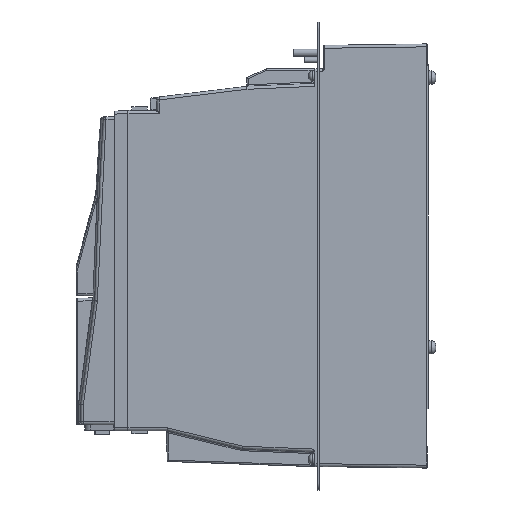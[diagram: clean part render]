
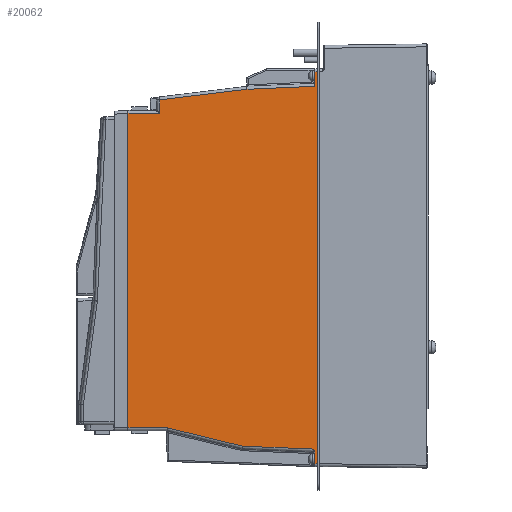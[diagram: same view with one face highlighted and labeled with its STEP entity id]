
A CAD part, left-side view. The second image highlights one B-rep face of the part: STEP entity #20062.
In plain terms, the highlighted planar face has unit normal (-1, 0, 0).
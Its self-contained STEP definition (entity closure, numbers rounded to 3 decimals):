
#437 = VERTEX_POINT ( 'NONE', #40171 ) ;
#692 = CARTESIAN_POINT ( 'NONE',  ( -64., 74.55, -19. ) ) ;
#2095 = CARTESIAN_POINT ( 'NONE',  ( -64., 76.5, -278.822 ) ) ;
#2108 = VECTOR ( 'NONE', #11849, 1000. ) ;
#2251 = PLANE ( 'NONE',  #21089 ) ;
#2883 = DIRECTION ( 'NONE',  ( 0., 0., -1. ) ) ;
#3794 = EDGE_CURVE ( 'NONE', #24549, #13178, #8163, .T. ) ;
#4259 = ORIENTED_EDGE ( 'NONE', *, *, #24205, .F. ) ;
#4426 = EDGE_CURVE ( 'NONE', #437, #16035, #15806, .T. ) ;
#4642 = VERTEX_POINT ( 'NONE', #39278 ) ;
#5398 = VERTEX_POINT ( 'NONE', #28375 ) ;
#5459 = EDGE_CURVE ( 'NONE', #33635, #5398, #6779, .T. ) ;
#6179 = ORIENTED_EDGE ( 'NONE', *, *, #4426, .T. ) ;
#6742 = ORIENTED_EDGE ( 'NONE', *, *, #17288, .T. ) ;
#6779 = LINE ( 'NONE', #25978, #37613 ) ;
#6799 = CARTESIAN_POINT ( 'NONE',  ( -64., 76.535, -278.634 ) ) ;
#7406 = VECTOR ( 'NONE', #12779, 1000. ) ;
#8040 = CARTESIAN_POINT ( 'NONE',  ( -64., 76.92, -277.036 ) ) ;
#8118 = VECTOR ( 'NONE', #22846, 1000. ) ;
#8163 = B_SPLINE_CURVE_WITH_KNOTS ( 'NONE', 3,
 ( #20153, #21287, #46910, #14403, #34622, #6799, #2095, #28861 ),
 .UNSPECIFIED., .F., .F.,
 ( 4, 2, 2, 4 ),
 ( 0., 0.001, 0.002, 0.002 ),
 .UNSPECIFIED. ) ;
#8176 = VERTEX_POINT ( 'NONE', #45476 ) ;
#9281 = CARTESIAN_POINT ( 'NONE',  ( -64., 77.5, -277.013 ) ) ;
#9506 = CARTESIAN_POINT ( 'NONE',  ( -64., 76.5, -28.98 ) ) ;
#9749 = DIRECTION ( 'NONE',  ( 0., 1., 0. ) ) ;
#10390 = ORIENTED_EDGE ( 'NONE', *, *, #46498, .T. ) ;
#11049 = CARTESIAN_POINT ( 'NONE',  ( -64., 76.5, -19. ) ) ;
#11173 = ORIENTED_EDGE ( 'NONE', *, *, #39500, .T. ) ;
#11457 = CARTESIAN_POINT ( 'NONE',  ( -64., 182.5, -289. ) ) ;
#11678 = LINE ( 'NONE', #11457, #8118 ) ;
#11849 = DIRECTION ( 'NONE',  ( 0., -0.999, -0.041 ) ) ;
#12002 = FACE_OUTER_BOUND ( 'NONE', #35354, .T. ) ;
#12112 = CARTESIAN_POINT ( 'NONE',  ( -64., 76.5, -279.014 ) ) ;
#12421 = LINE ( 'NONE', #26896, #33940 ) ;
#12471 = CARTESIAN_POINT ( 'NONE',  ( -64., 202.8, -289. ) ) ;
#12491 = CARTESIAN_POINT ( 'NONE',  ( -64., 232.631, -44.384 ) ) ;
#12779 = DIRECTION ( 'NONE',  ( 0., 0., 1. ) ) ;
#12823 = ORIENTED_EDGE ( 'NONE', *, *, #27139, .T. ) ;
#13178 = VERTEX_POINT ( 'NONE', #12112 ) ;
#13323 = CARTESIAN_POINT ( 'NONE',  ( -64., 202.8, -19. ) ) ;
#14171 = VERTEX_POINT ( 'NONE', #16903 ) ;
#14403 = CARTESIAN_POINT ( 'NONE',  ( -64., 76.733, -278.099 ) ) ;
#14556 = DIRECTION ( 'NONE',  ( 0., 1., 0. ) ) ;
#14998 = CARTESIAN_POINT ( 'NONE',  ( -64., 74.55, -287. ) ) ;
#15806 = LINE ( 'NONE', #18671, #28524 ) ;
#16035 = VERTEX_POINT ( 'NONE', #14998 ) ;
#16751 = DIRECTION ( 'NONE',  ( 0., 0., -1. ) ) ;
#16789 = VECTOR ( 'NONE', #31763, 1000. ) ;
#16903 = CARTESIAN_POINT ( 'NONE',  ( -64., 177.407, -262.5 ) ) ;
#17288 = EDGE_CURVE ( 'NONE', #38104, #41420, #39173, .T. ) ;
#18089 = CARTESIAN_POINT ( 'NONE',  ( -64., 76.5, -289. ) ) ;
#18478 = ORIENTED_EDGE ( 'NONE', *, *, #5459, .T. ) ;
#18671 = CARTESIAN_POINT ( 'NONE',  ( -64., 202.8, -287. ) ) ;
#19622 = VECTOR ( 'NONE', #45233, 1000. ) ;
#20062 = ADVANCED_FACE ( 'NONE', ( #12002 ), #2251, .F. ) ;
#20105 = CARTESIAN_POINT ( 'NONE',  ( -64., 182.5, -47.5 ) ) ;
#20153 = CARTESIAN_POINT ( 'NONE',  ( -64., 77.5, -277.013 ) ) ;
#20310 = LINE ( 'NONE', #12491, #19622 ) ;
#20435 = EDGE_CURVE ( 'NONE', #16035, #38104, #12421, .T. ) ;
#21089 = AXIS2_PLACEMENT_3D ( 'NONE', #12471, #45464, #16751 ) ;
#21287 = CARTESIAN_POINT ( 'NONE',  ( -64., 77.259, -277.308 ) ) ;
#21886 = CARTESIAN_POINT ( 'NONE',  ( -64., 125.725, -275.044 ) ) ;
#22846 = DIRECTION ( 'NONE',  ( 0., 0., -1. ) ) ;
#23090 = EDGE_CURVE ( 'NONE', #5398, #8176, #20310, .T. ) ;
#23657 = CARTESIAN_POINT ( 'NONE',  ( -64., 76.5, -289. ) ) ;
#23943 = LINE ( 'NONE', #34868, #16789 ) ;
#24168 = EDGE_CURVE ( 'NONE', #46545, #24549, #41057, .T. ) ;
#24195 = ORIENTED_EDGE ( 'NONE', *, *, #20435, .T. ) ;
#24205 = EDGE_CURVE ( 'NONE', #4642, #38356, #34165, .T. ) ;
#24325 = VECTOR ( 'NONE', #14556, 1000. ) ;
#24549 = VERTEX_POINT ( 'NONE', #9281 ) ;
#25925 = CARTESIAN_POINT ( 'NONE',  ( -64., 202.8, -47.5 ) ) ;
#25978 = CARTESIAN_POINT ( 'NONE',  ( -64., 213.846, -34.952 ) ) ;
#26160 = EDGE_CURVE ( 'NONE', #4642, #14171, #36019, .T. ) ;
#26896 = CARTESIAN_POINT ( 'NONE',  ( -64., 74.55, 10. ) ) ;
#27139 = EDGE_CURVE ( 'NONE', #41420, #33635, #45238, .T. ) ;
#28375 = CARTESIAN_POINT ( 'NONE',  ( -64., 122.835, -30.995 ) ) ;
#28524 = VECTOR ( 'NONE', #30268, 1000. ) ;
#28861 = CARTESIAN_POINT ( 'NONE',  ( -64., 76.5, -279.014 ) ) ;
#30268 = DIRECTION ( 'NONE',  ( 0., -1., 0. ) ) ;
#30598 = ORIENTED_EDGE ( 'NONE', *, *, #23090, .T. ) ;
#30610 = ORIENTED_EDGE ( 'NONE', *, *, #26160, .T. ) ;
#30752 = ORIENTED_EDGE ( 'NONE', *, *, #3794, .T. ) ;
#30890 = DIRECTION ( 'NONE',  ( 0., 0., 1. ) ) ;
#31508 = CARTESIAN_POINT ( 'NONE',  ( -64., 204.2, -47.5 ) ) ;
#31582 = ORIENTED_EDGE ( 'NONE', *, *, #32443, .T. ) ;
#31763 = DIRECTION ( 'NONE',  ( 0., -0.972, -0.236 ) ) ;
#32443 = EDGE_CURVE ( 'NONE', #8176, #35632, #11678, .T. ) ;
#33635 = VERTEX_POINT ( 'NONE', #9506 ) ;
#33940 = VECTOR ( 'NONE', #30890, 1000. ) ;
#34165 = LINE ( 'NONE', #45073, #7406 ) ;
#34622 = CARTESIAN_POINT ( 'NONE',  ( -64., 76.652, -278.27 ) ) ;
#34868 = CARTESIAN_POINT ( 'NONE',  ( -64., 125.536, -275.09 ) ) ;
#35354 = EDGE_LOOP ( 'NONE', ( #30610, #11173, #40656, #30752, #10390, #6179, #24195, #6742, #12823, #18478, #30598, #31582, #46677, #4259 ) ) ;
#35632 = VERTEX_POINT ( 'NONE', #20105 ) ;
#36019 = LINE ( 'NONE', #38872, #42376 ) ;
#36677 = DIRECTION ( 'NONE',  ( 0., 0.999, -0.043 ) ) ;
#37613 = VECTOR ( 'NONE', #36677, 1000. ) ;
#38104 = VERTEX_POINT ( 'NONE', #692 ) ;
#38356 = VERTEX_POINT ( 'NONE', #31508 ) ;
#38872 = CARTESIAN_POINT ( 'NONE',  ( -64., 202.8, -262.5 ) ) ;
#39173 = LINE ( 'NONE', #13323, #45453 ) ;
#39278 = CARTESIAN_POINT ( 'NONE',  ( -64., 204.2, -262.5 ) ) ;
#39445 = VECTOR ( 'NONE', #45720, 1000. ) ;
#39464 = LINE ( 'NONE', #18089, #39700 ) ;
#39500 = EDGE_CURVE ( 'NONE', #14171, #46545, #23943, .T. ) ;
#39700 = VECTOR ( 'NONE', #2883, 1000. ) ;
#39935 = LINE ( 'NONE', #25925, #24325 ) ;
#40171 = CARTESIAN_POINT ( 'NONE',  ( -64., 76.5, -287. ) ) ;
#40656 = ORIENTED_EDGE ( 'NONE', *, *, #24168, .T. ) ;
#40754 = EDGE_CURVE ( 'NONE', #35632, #38356, #39935, .T. ) ;
#41057 = LINE ( 'NONE', #8040, #2108 ) ;
#41420 = VERTEX_POINT ( 'NONE', #11049 ) ;
#42376 = VECTOR ( 'NONE', #46468, 1000. ) ;
#45073 = CARTESIAN_POINT ( 'NONE',  ( -64., 204.2, 0. ) ) ;
#45233 = DIRECTION ( 'NONE',  ( 0., 0.993, -0.121 ) ) ;
#45238 = LINE ( 'NONE', #23657, #39445 ) ;
#45453 = VECTOR ( 'NONE', #9749, 1000. ) ;
#45464 = DIRECTION ( 'NONE',  ( 1., 0., 0. ) ) ;
#45476 = CARTESIAN_POINT ( 'NONE',  ( -64., 182.5, -38.271 ) ) ;
#45720 = DIRECTION ( 'NONE',  ( 0., 0., -1. ) ) ;
#46468 = DIRECTION ( 'NONE',  ( 0., -1., 0. ) ) ;
#46498 = EDGE_CURVE ( 'NONE', #13178, #437, #39464, .T. ) ;
#46545 = VERTEX_POINT ( 'NONE', #21886 ) ;
#46677 = ORIENTED_EDGE ( 'NONE', *, *, #40754, .T. ) ;
#46910 = CARTESIAN_POINT ( 'NONE',  ( -64., 77.016, -277.606 ) ) ;
